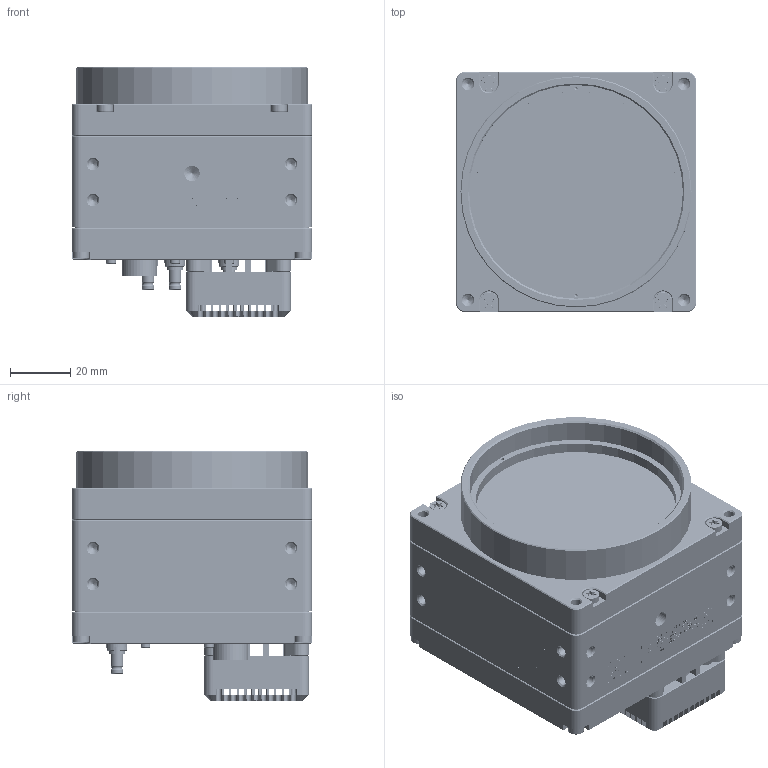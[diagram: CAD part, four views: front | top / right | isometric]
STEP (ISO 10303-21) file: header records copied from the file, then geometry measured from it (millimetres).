
FILE_DESCRIPTION (( 'STEP AP214' ), '1' );
FILE_NAME ('F004079-03001 SHR411CCX Lackierstufe.STEP', '2021-02-23T10:34:01', ( '' ), ( '' ), 'SwSTEP 2.0', 'SolidWorks 2020', '' );
FILE_SCHEMA (( 'AUTOMOTIVE_DESIGN' ));
Length unit declared in the file: millimetre
Products named in the file (35): F004079-03001 SHR411CCX Lackierstufe; E004054-01001 Distanzring SHR411 f黵 Deckglas d=71,0; E002762-01001 Sensordichtung SHR411; HRS12 Mutter; IMX411AQR MS. Base; E002258-00000 M2x4 FK; E002734-02001 Bügel Sensor IMX411; CXP Stecker; E002082 Lichtleiter Mentor 1282.2000; N000031-00000 SCHRAUBE M2x4 Torx ISO14583_M2x04; IMX411AQR MS; E002849-02001 Rückplatte SHR411xCX Lackierstufe Fertigteil -  lackiert und Tampondruck_CXP2; E002846-03001 Mittelteil SHR411 Fertigteil Lackierstufe - lackiert und Tampondruck_Step; N000055-00000 Schraube M3x16 Torx ISO14580; N000064-00000 Abstandsbolzen M2x10_Abstandshalter M2x8; N000081-00000 Zylinderstift ISO 2338 2m6 x 8 Edelstahl; HRS10A-12R-12PB(71) Body; E002478-01002 Haltering SHR47051 f黵 Deckglas d_71; CXP Schraube; IMX411AQR MS Glass; HRS10A-12R-12PB(71); E001494-00000 Kühlpad 31 x 31x 2,5mm; Baugruppe Sensor-Bügel; E002400-03001 Montage Flansch HRS10A; E004053-01001 Filter IR-Cut 680 71mm; N000096-00000 Senkkopfschraube ISO 14581 A2 M2x16; E003308-01001 Sensor IMX411AQR-C CMOS MS; E001478-00000 Kühlpad 27x27x2,0mm; E001484-00000 Kühlpad 35 x 5 x 2 mm; HRS10A Pin; E002844-02001 Frontplatte SHR411 Lackierstufe Fertigteil - lackiert_Standard 19,55mm mit Schutzglas; E002740-01001 Lüfter HR2 - Fan axial 30x30x10mm 5VDC Tacho; E002867-01001 Lüfterkäfig SHR leise Fertigteil -  lackiert; E001493-00000 Kühlpad 18 x 18 x2mm; M2x8
Assembly tree (84 placements, depth 5):
  F004079-03001 SHR411CCX Lackierstufe
    Baugruppe Sensor-Bügel
      E002734-02001 Bügel Sensor IMX411  x2
      E003308-01001 Sensor IMX411AQR-C CMOS MS
        IMX411AQR MS
          IMX411AQR MS. Base
          IMX411AQR MS Glass
    E002844-02001 Frontplatte SHR411 Lackierstufe Fertigteil - lackiert_Standard 19,55mm mit Schutzglas
    E002762-01001 Sensordichtung SHR411
    E002846-03001 Mittelteil SHR411 Fertigteil Lackierstufe - lackiert und Tampondruck_Step
    E002849-02001 Rückplatte SHR411xCX Lackierstufe Fertigteil -  lackiert und Tampondruck_CXP2
    E004053-01001 Filter IR-Cut 680 71mm
    E004054-01001 Distanzring SHR411 f黵 Deckglas d=71,0
    E002478-01002 Haltering SHR47051 f黵 Deckglas d_71
    E001493-00000 Kühlpad 18 x 18 x2mm
    E001484-00000 Kühlpad 35 x 5 x 2 mm  x2
    E001478-00000 Kühlpad 27x27x2,0mm
    E001494-00000 Kühlpad 31 x 31x 2,5mm
    E002740-01001 Lüfter HR2 - Fan axial 30x30x10mm 5VDC Tacho
    E002867-01001 Lüfterkäfig SHR leise Fertigteil -  lackiert
    E002258-00000 M2x4 FK  x6
    E002082 Lichtleiter Mentor 1282.2000  x5
    N000064-00000 Abstandsbolzen M2x10_Abstandshalter M2x8  x4
    CXP Schraube  x7
    N000055-00000 Schraube M3x16 Torx ISO14580  x8
    N000081-00000 Zylinderstift ISO 2338 2m6 x 8 Edelstahl  x4
    N000096-00000 Senkkopfschraube ISO 14581 A2 M2x16  x3
    N000031-00000 SCHRAUBE M2x4 Torx ISO14583_M2x04  x2
    E002400-03001 Montage Flansch HRS10A
    HRS10A-12R-12PB(71)
      HRS10A Pin  x12
      HRS10A-12R-12PB(71) Body
    HRS12 Mutter
    M2x8  x4
    CXP Stecker  x4
Bounding box: 80 x 80 x 83.05 mm (x, y, z)
Volume: 168091.1 mm3; surface area: 138886.1 mm2
Topology: 80 solids, 80 shells, 10677 faces, 26932 edges, 17580 vertices
Faces by surface type: plane 4980, bspline 3616, cylinder 1554, cone 385, torus 94, sphere 48
Full cylindrical faces by diameter (mm): 0.327 x4, 0.8 x36, 1 x598, 1.1 x2, 1.2 x12, 1.6 x13, 1.674 x52, 1.8 x7, 1.98 x2, 2 x22, 2.05 x2, 2.1 x4, 2.2 x3, 2.5 x9, 2.8 x5, 2.85 x5, 2.96 x8, 3 x7, 3.2 x12, 3.3 x20, 3.4 x4, 3.5 x6, 4 x8, 4.15 x8, 4.2 x4, 5 x4, 5.105 x1, 5.2 x7, 5.4 x8, 5.5 x4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
Entity records: 403573 total; most frequent: CARTESIAN_POINT 119242, ORIENTED_EDGE 46510, DIRECTION 30449, EDGE_CURVE 23255, VERTEX_POINT 15903, VECTOR 13397, LINE 13397, EDGE_LOOP 11752
